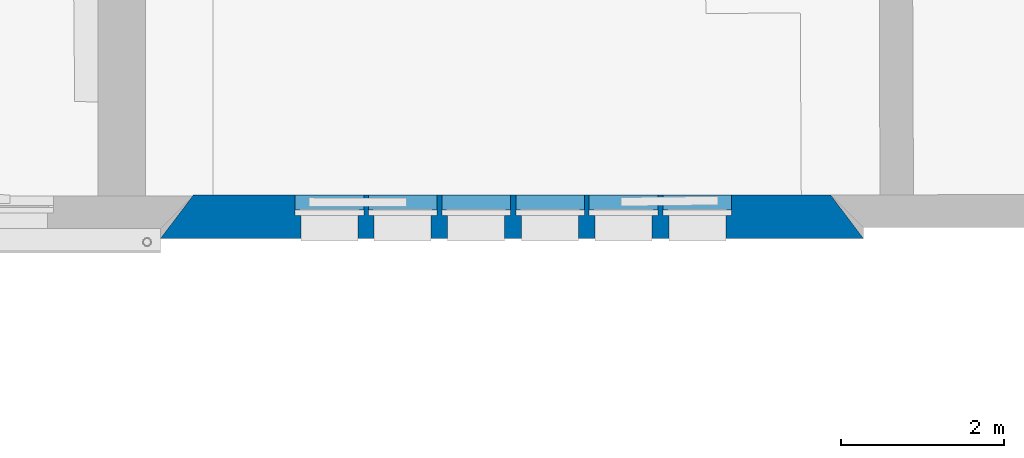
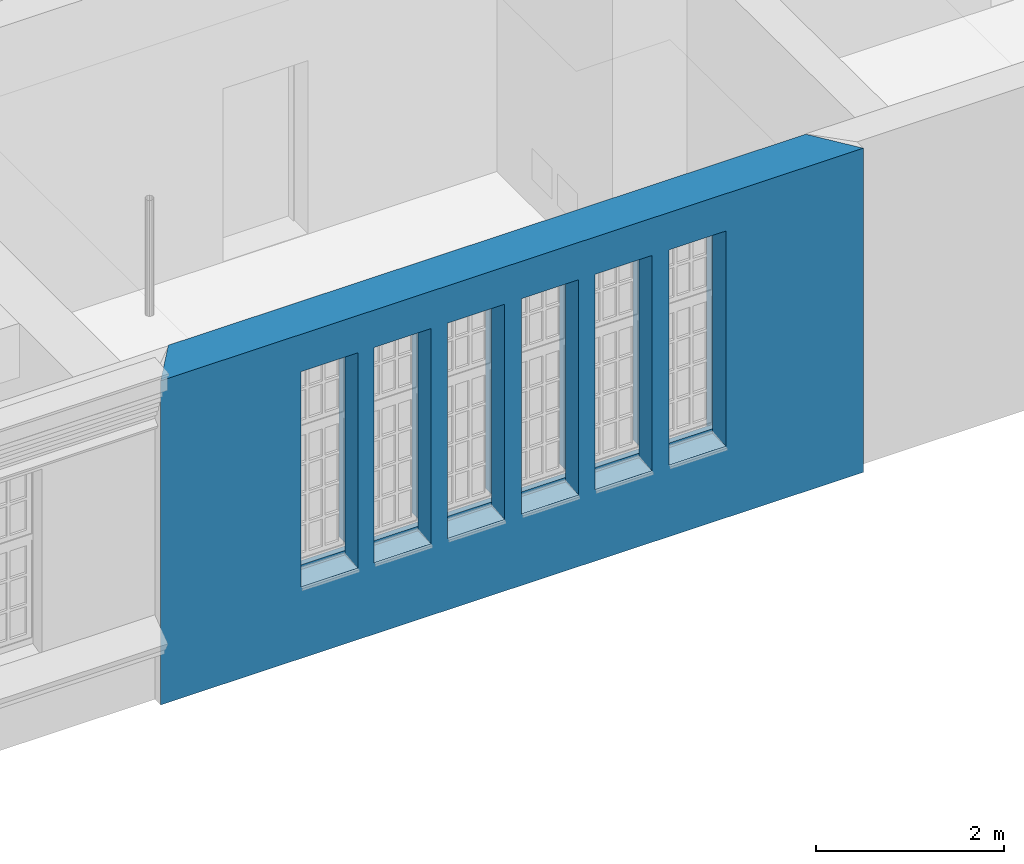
# One storey, part 21 of 90: 1 wall, 11 openings.
"""IFC2X3 building model written with IfcOpenShell, lengths in metres."""

import ifcopenshell
import ifcopenshell.guid

model = None  # the IFC model being written
_history = None  # IfcOwnerHistory: only IFC2X3 demands one
_inside = {}  # id of a spatial element -> (the spatial element, [elements in it])
_under = {}  # id of a project, library or spatial element -> (it, [spatial elements below it])
_declared = {}  # id of a project -> (the project, [libraries it declares])
_typed = {}  # id of a type object -> (the type object, [elements of that type])
_made_of = {}  # id of a material, layer set ... -> (it, [elements and type objects made of it])


def new_model(schema):
    """Start an empty IFC model of exactly this schema.

    Asked for "IFC4X3", IfcOpenShell would pick the latest addendum, in which some entities
    have other attributes; the version numbers below select the first issue.
    IFC2X3 requires an IfcOwnerHistory on every rooted entity: one is made here for all.
    """
    global model, _history
    if schema == "IFC4X3":
        model = ifcopenshell.file(schema_version=(4, 3, 0, 0))
    else:
        model = ifcopenshell.file(schema=schema)
    _inside.clear()
    _under.clear()
    _declared.clear()
    _typed.clear()
    _made_of.clear()
    _history = None
    if model.schema == "IFC2X3":
        org = make("IfcOrganization", Name="unknown")
        user = make(
            "IfcPersonAndOrganization",
            ThePerson=make("IfcPerson", FamilyName="unknown"),
            TheOrganization=org,
        )
        app = make(
            "IfcApplication",
            ApplicationDeveloper=org,
            Version="unknown",
            ApplicationFullName="unknown",
            ApplicationIdentifier="unknown",
        )
        _history = make(
            "IfcOwnerHistory",
            OwningUser=user,
            OwningApplication=app,
            ChangeAction="ADDED",
            CreationDate=0,
        )
    return model


def make(cls, **values):
    """One entity of the class cls with the attributes given. An attribute that is None is left unset."""
    return model.create_entity(
        cls, **{name: value for name, value in values.items() if value is not None}
    )


def entity(cls, *values):
    """Any entity or typed value of the class cls, its attributes in the order of the schema. None: left unset."""
    e = model.create_entity(cls)
    for i, value in enumerate(values):
        if value is not None:
            e[i] = value
    return e


def rooted(cls, **values):
    """An entity with a GlobalId (a new one), such as an element, a storey or a relation."""
    return make(cls, GlobalId=ifcopenshell.guid.new(), OwnerHistory=_history, **values)


def si_unit(unit_type, name, prefix=None):
    """IfcSIUnit, for example si_unit("LENGTHUNIT", "METRE", prefix="MILLI")."""
    return make("IfcSIUnit", UnitType=unit_type, Prefix=prefix, Name=name)


def converted_unit(unit_type, name, factor, base, dimensions=None, offset=None):
    """IfcConversionBasedUnit, such as the inch: factor (a typed value) times the base unit."""
    return make(
        "IfcConversionBasedUnit"
        if offset is None
        else "IfcConversionBasedUnitWithOffset",
        ConversionOffset=offset,
        Dimensions=None
        if dimensions is None
        else entity("IfcDimensionalExponents", *dimensions),
        UnitType=unit_type,
        Name=name,
        ConversionFactor=make(
            "IfcMeasureWithUnit", ValueComponent=factor, UnitComponent=base
        ),
    )


def derived_unit(unit_type, elements):
    """IfcDerivedUnit: a product of units, each with its exponent."""
    return make(
        "IfcDerivedUnit",
        Elements=[
            make("IfcDerivedUnitElement", Unit=unit, Exponent=power)
            for unit, power in elements
        ],
        UnitType=unit_type,
    )


def money_unit(currency):
    """IfcMonetaryUnit."""
    return make("IfcMonetaryUnit", Currency=currency)


def assignment(units):
    """IfcUnitAssignment: the units of a project."""
    return None if units is None else make("IfcUnitAssignment", Units=units)


def point(xyz):
    """IfcCartesianPoint."""
    return None if xyz is None else make("IfcCartesianPoint", Coordinates=xyz)


def direction(xyz):
    """IfcDirection."""
    return None if xyz is None else make("IfcDirection", DirectionRatios=xyz)


def frame(location, z_axis=None, x_axis=None):
    """IfcAxis2Placement3D, a coordinate frame: its origin and axes. An axis left out is left unset."""
    return make(
        "IfcAxis2Placement3D",
        Location=point(location),
        Axis=direction(z_axis),
        RefDirection=direction(x_axis),
    )


def frame_2d(location, x_axis=None):
    """IfcAxis2Placement2D, a coordinate frame in the plane: its origin and x axis."""
    return make(
        "IfcAxis2Placement2D", Location=point(location), RefDirection=direction(x_axis)
    )


def origin_with_axes():
    """The frame at (0, 0, 0) with the z axis (0, 0, 1) and the x axis (1, 0, 0) written out."""
    return frame((0.0, 0.0, 0.0), z_axis=(0.0, 0.0, 1.0), x_axis=(1.0, 0.0, 0.0))


def origin_2d_with_axis():
    """The frame at (0, 0) in the plane with the x axis (1, 0) written out."""
    return frame_2d((0.0, 0.0), x_axis=(1.0, 0.0))


def place(relative_to, where):
    """IfcLocalPlacement: puts the frame where relative to a parent placement (None: the world)."""
    return make(
        "IfcLocalPlacement", PlacementRelTo=relative_to, RelativePlacement=where
    )


def context(
    kind, dimensions, precision=None, world=None, true_north=None, identifier=None
):
    """IfcGeometricRepresentationContext, for example the 3D "Model" context."""
    return make(
        "IfcGeometricRepresentationContext",
        ContextIdentifier=identifier,
        ContextType=kind,
        CoordinateSpaceDimension=dimensions,
        Precision=precision,
        WorldCoordinateSystem=world,
        TrueNorth=true_north,
    )


def subcontext(parent, identifier, kind, view, scale=None):
    """IfcGeometricRepresentationSubContext, for example "Body" below "Model"."""
    return make(
        "IfcGeometricRepresentationSubContext",
        ContextIdentifier=identifier,
        ContextType=kind,
        ParentContext=parent,
        TargetScale=scale,
        TargetView=view,
    )


def project(units=None, contexts=None):
    """IfcProject with its units and contexts."""
    return rooted(
        "IfcProject",
        Name="project",
        RepresentationContexts=contexts,
        UnitsInContext=assignment(units),
    )


def spatial(cls, under=None, at=None, **own):
    """A site, building, storey or space (cls), placed at a placement, below another one or the project."""
    s = rooted(cls, ObjectPlacement=at, **own)
    if under is not None:
        _under.setdefault(under.id(), (under, []))[1].append(s)
    return s


def polyline(points):
    """IfcPolyline through the points."""
    return make("IfcPolyline", Points=[point(p) for p in points])


def profile(cls, at=None, kind="AREA", **sizes):
    """A parametric profile (cls). Its sizes go by their IFC names, for example OverallWidth=200.0."""
    return make(cls, ProfileType=kind, Position=at, **sizes)


def rectangle(**sizes):
    """IfcRectangleProfileDef."""
    return profile("IfcRectangleProfileDef", **sizes)


def outline(outer, holes=None, kind="AREA"):
    """IfcArbitraryClosedProfileDef: a profile drawn as a closed curve; with holes, ...WithVoids."""
    if holes is None:
        return make("IfcArbitraryClosedProfileDef", ProfileType=kind, OuterCurve=outer)
    return make(
        "IfcArbitraryProfileDefWithVoids",
        ProfileType=kind,
        OuterCurve=outer,
        InnerCurves=holes,
    )


def extrude(swept, where, along, depth):
    """IfcExtrudedAreaSolid: the profile swept, set in the frame where, extruded along a direction by depth."""
    return make(
        "IfcExtrudedAreaSolid",
        SweptArea=swept,
        Position=where,
        ExtrudedDirection=direction(along),
        Depth=depth,
    )


def shape(context_of_items, identifier, shape_type, items):
    """IfcShapeRepresentation: the items that make up one representation, for example the "Body"."""
    return make(
        "IfcShapeRepresentation",
        ContextOfItems=context_of_items,
        RepresentationIdentifier=identifier,
        RepresentationType=shape_type,
        Items=items,
    )


def material(Name=None, Category=None):
    """IfcMaterial."""
    return make("IfcMaterial", Name=Name, Category=Category)


def layer(
    of_material, thickness, ventilated=None, Name=None, Category=None, Priority=None
):
    """IfcMaterialLayer: one layer of a wall or slab, of a material (None: an air gap)."""
    return make(
        "IfcMaterialLayer",
        Material=of_material,
        LayerThickness=thickness,
        IsVentilated=ventilated,
        Name=Name,
        Category=Category,
        Priority=Priority,
    )


def layer_set(layers, Name=None):
    """IfcMaterialLayerSet."""
    return make("IfcMaterialLayerSet", MaterialLayers=layers, LayerSetName=Name)


def layer_usage(for_layer_set, set_direction, sense, offset, extent=None):
    """IfcMaterialLayerSetUsage: how a layer set lies in its element."""
    return make(
        "IfcMaterialLayerSetUsage",
        ForLayerSet=for_layer_set,
        LayerSetDirection=set_direction,
        DirectionSense=sense,
        OffsetFromReferenceLine=offset,
        ReferenceExtent=extent,
    )


def made_of(thing, what):
    """Note that an element or type object is made of a material, layer set ...; save() writes the relation."""
    if what is not None:
        _made_of.setdefault(what.id(), (what, []))[1].append(thing)
    return thing


def type_object(cls, material=None, **own):
    """A type object (cls), such as IfcWallType, which elements share."""
    return made_of(rooted(cls, **own), material)


def element(
    cls,
    number,
    at=None,
    inside=None,
    cuts=None,
    type_object=None,
    material=None,
    context=None,
    identifier="Body",
    shape_type=None,
    held_by="IfcProductDefinitionShape",
    body=None,
    shapes=None,
    **own,
):
    """One element of the class cls, such as IfcWall. Its Tag is "e" and its number.

    at: its placement. inside: the storey or other place that contains it. cuts: it is an
    opening in that element (IfcRelVoidsElement). A single representation is given by context,
    identifier, shape_type and body (its items); several are given by shapes. held_by: the class
    of the entity that holds the representations. save() writes the other relations.
    """
    e = rooted(cls, Tag="e%d" % number, ObjectPlacement=at, **own)
    if body is not None:
        shapes = [shape(context, identifier, shape_type, body)]
    if shapes is not None:
        e.Representation = make(held_by, Representations=shapes)
    if inside is not None:
        _inside.setdefault(inside.id(), (inside, []))[1].append(e)
    if cuts is not None:
        rooted(
            "IfcRelVoidsElement", RelatingBuildingElement=cuts, RelatedOpeningElement=e
        )
    if type_object is not None:
        _typed.setdefault(type_object.id(), (type_object, []))[1].append(e)
    return made_of(e, material)


def aggregate(whole, parts):
    """IfcRelAggregates: a whole, such as a stair, and the parts it consists of."""
    return rooted("IfcRelAggregates", RelatingObject=whole, RelatedObjects=parts)


def save(model, path):
    """Write the relations noted so far, then the file.

    IfcRelAggregates (storeys below a building ...), IfcRelContainedInSpatialStructure (elements
    in a storey), IfcRelDefinesByType, IfcRelAssociatesMaterial and IfcRelDeclares: one each for
    every whole, place, type object, material and project.
    """
    for whole, parts in _under.values():
        aggregate(whole, parts)
    for where, things in _inside.values():
        rooted(
            "IfcRelContainedInSpatialStructure",
            RelatedElements=things,
            RelatingStructure=where,
        )
    for kind, things in _typed.values():
        rooted("IfcRelDefinesByType", RelatedObjects=things, RelatingType=kind)
    for what, things in _made_of.values():
        rooted("IfcRelAssociatesMaterial", RelatedObjects=things, RelatingMaterial=what)
    for by, libraries in _declared.values():
        rooted("IfcRelDeclares", RelatingContext=by, RelatedDefinitions=libraries)
    model.write(path)


model = new_model("IFC2X3")

# Units and contexts
model_context = context("Model", 3, precision=1e-05, world=origin_with_axes(), true_north=direction((0.0, 1.0)))
body_context = subcontext(model_context, "Body", "Model", "MODEL_VIEW")
ifc_project = project(units=[si_unit("LENGTHUNIT", "METRE"), si_unit("AREAUNIT", "SQUARE_METRE"), si_unit("VOLUMEUNIT", "CUBIC_METRE"), converted_unit("PLANEANGLEUNIT", "DEGREE", entity("IfcPlaneAngleMeasure", 0.0174532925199), si_unit("PLANEANGLEUNIT", "RADIAN"), dimensions=[0, 0, 0, 0, 0, 0, 0]), money_unit("EUR"), converted_unit("TIMEUNIT", "Year", entity("IfcTimeMeasure", 31556926.0), si_unit("TIMEUNIT", "SECOND"), dimensions=[0, 0, 1, 0, 0, 0, 0]), si_unit("MASSUNIT", "GRAM", prefix="KILO"), si_unit("THERMODYNAMICTEMPERATUREUNIT", "DEGREE_CELSIUS"), si_unit("LUMINOUSINTENSITYUNIT", "LUMEN"), si_unit("ENERGYUNIT", "JOULE", prefix="MEGA"), derived_unit("THERMALCONDUCTANCEUNIT", [(si_unit("POWERUNIT", "WATT"), 1), (si_unit("LENGTHUNIT", "METRE"), -1), (si_unit("THERMODYNAMICTEMPERATUREUNIT", "KELVIN"), -1)]), derived_unit("SPECIFICHEATCAPACITYUNIT", [(si_unit("ENERGYUNIT", "JOULE"), 1), (si_unit("MASSUNIT", "GRAM", prefix="KILO"), -1), (si_unit("THERMODYNAMICTEMPERATUREUNIT", "KELVIN"), -1)]), derived_unit("MASSDENSITYUNIT", [(si_unit("MASSUNIT", "GRAM", prefix="KILO"), 1), (si_unit("VOLUMEUNIT", "CUBIC_METRE"), -1)])], contexts=[model_context])

# Site, building, storey
site_placement = place(None, origin_with_axes())
site = spatial("IfcSite", under=ifc_project, at=site_placement, Name="Gelände", CompositionType="ELEMENT")
building_placement = place(site_placement, origin_with_axes())
building = spatial("IfcBuilding", under=site, at=building_placement, Name="Gebäude", CompositionType="ELEMENT")
storey_placement = place(building_placement, frame((0.0, 0.0, 3.7), z_axis=(0.0, 0.0, 1.0), x_axis=(1.0, 0.0, 0.0)))
storey = spatial("IfcBuildingStorey", under=building, at=storey_placement, Name="1.OBERGESCHOSS", CompositionType="ELEMENT", Elevation=3.7)

# Wall, openings
ifc_material = material(Name="05_ALLGEMEIN - TRAGENDE BAUTEILE")
ifc_layer = layer(ifc_material, 0.53, ventilated="UNKNOWN")
ifc_layer_set = layer_set([ifc_layer], Name="05_ALLGEMEIN - TRAGENDE BAUTEILE 0.53")
ifc_layer_usage = layer_usage(ifc_layer_set, "AXIS2", "NEGATIVE", 0.53)
wall_type = type_object("IfcWallType", Name="05_ALLGEMEIN - TRAGENDE BAUTEILE 530", PredefinedType="ELEMENTEDWALL")
wall_placement = place(storey_placement, frame((3.74546259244, 9.87440782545, -0.1), z_axis=(0.0, 0.0, 1.0), x_axis=(0.999999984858, -0.000174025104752, 0.0)))
wall = element("IfcWallStandardCase", 1, at=wall_placement, inside=storey, type_object=wall_type, material=ifc_layer_usage, Name="Wand-036", ObjectType="ELEMENTEDWALL", context=body_context, shape_type="SweptSolid", body=[
    extrude(outline(polyline([(0.0, 0.0), (8.61264989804, 0.0), (8.21264989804, 0.53), (0.401175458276, 0.53), (0.0, 0.0)])), origin_with_axes(), (0.0, 0.0, 1.0), 4.2),
])
opening_1_placement = place(wall_placement, frame((2.06990755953, 0.0, 0.986122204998), z_axis=(0.0, 0.0, 1.0), x_axis=(1.0, 0.0, 0.0)))
element("IfcOpeningElement", 2, at=opening_1_placement, cuts=wall, Name="Fenster-015", context=body_context, shape_type="SweptSolid", body=[
    extrude(rectangle(XDim=0.840207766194, YDim=1.18, at=origin_2d_with_axis()), frame((0.0, 0.94, -0.786122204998), z_axis=(0.0, 0.0, 1.0), x_axis=(1.0, 0.0, 0.0)), (0.0, 0.0, 1.0), 0.786122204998),
    extrude(rectangle(XDim=0.700207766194, YDim=2.79, at=origin_2d_with_axis()), frame((0.0, 0.28, 1.335), z_axis=(0.0, 1.0, 0.0), x_axis=(1.0, 0.0, 0.0)), (0.0, 0.0, -1.0), 0.81),
    extrude(rectangle(XDim=0.840207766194, YDim=2.86, at=origin_2d_with_axis()), frame((0.0, 0.35, 1.43), z_axis=(0.0, -1.0, 0.0), x_axis=(1.0, 0.0, 0.0)), (0.0, 0.0, -1.0), 0.71),
    extrude(rectangle(XDim=0.840207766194, YDim=2.8, at=origin_2d_with_axis()), frame((0.0, 0.28, 1.4), z_axis=(0.0, 1.0, 0.0), x_axis=(1.0, 0.0, 0.0)), (0.0, 0.0, 1.0), 0.07),
])
opening_2_placement = place(wall_placement, frame((2.96587801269, 0.0, 0.986122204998), z_axis=(0.0, 0.0, 1.0), x_axis=(1.0, 0.0, 0.0)))
element("IfcOpeningElement", 3, at=opening_2_placement, cuts=wall, Name="Fenster-015", context=body_context, shape_type="SweptSolid", body=[
    extrude(rectangle(XDim=0.840207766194, YDim=1.18, at=origin_2d_with_axis()), frame((0.0, 0.94, -0.786122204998), z_axis=(0.0, 0.0, 1.0), x_axis=(1.0, 0.0, 0.0)), (0.0, 0.0, 1.0), 0.786122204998),
    extrude(rectangle(XDim=0.700207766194, YDim=2.79, at=origin_2d_with_axis()), frame((0.0, 0.28, 1.335), z_axis=(0.0, 1.0, 0.0), x_axis=(1.0, 0.0, 0.0)), (0.0, 0.0, -1.0), 0.81),
    extrude(rectangle(XDim=0.840207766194, YDim=2.86, at=origin_2d_with_axis()), frame((0.0, 0.35, 1.43), z_axis=(0.0, -1.0, 0.0), x_axis=(1.0, 0.0, 0.0)), (0.0, 0.0, -1.0), 0.71),
    extrude(rectangle(XDim=0.840207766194, YDim=2.8, at=origin_2d_with_axis()), frame((0.0, 0.28, 1.4), z_axis=(0.0, 1.0, 0.0), x_axis=(1.0, 0.0, 0.0)), (0.0, 0.0, 1.0), 0.07),
])
opening_3_placement = place(wall_placement, frame((3.86669796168, 0.0, 0.986122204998), z_axis=(0.0, 0.0, 1.0), x_axis=(1.0, 0.0, 0.0)))
element("IfcOpeningElement", 4, at=opening_3_placement, cuts=wall, Name="Fenster-015", context=body_context, shape_type="SweptSolid", body=[
    extrude(rectangle(XDim=0.840207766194, YDim=1.18, at=origin_2d_with_axis()), frame((0.0, 0.94, -0.786122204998), z_axis=(0.0, 0.0, 1.0), x_axis=(1.0, 0.0, 0.0)), (0.0, 0.0, 1.0), 0.786122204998),
    extrude(rectangle(XDim=0.700207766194, YDim=2.79, at=origin_2d_with_axis()), frame((0.0, 0.28, 1.335), z_axis=(0.0, 1.0, 0.0), x_axis=(1.0, 0.0, 0.0)), (0.0, 0.0, -1.0), 0.81),
    extrude(rectangle(XDim=0.840207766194, YDim=2.86, at=origin_2d_with_axis()), frame((0.0, 0.35, 1.43), z_axis=(0.0, -1.0, 0.0), x_axis=(1.0, 0.0, 0.0)), (0.0, 0.0, -1.0), 0.71),
    extrude(rectangle(XDim=0.840207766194, YDim=2.8, at=origin_2d_with_axis()), frame((0.0, 0.28, 1.4), z_axis=(0.0, 1.0, 0.0), x_axis=(1.0, 0.0, 0.0)), (0.0, 0.0, 1.0), 0.07),
])
opening_4_placement = place(wall_placement, frame((4.7735526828, 0.0, 0.986122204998), z_axis=(0.0, 0.0, 1.0), x_axis=(1.0, 0.0, 0.0)))
element("IfcOpeningElement", 5, at=opening_4_placement, cuts=wall, Name="Fenster-015", context=body_context, shape_type="SweptSolid", body=[
    extrude(rectangle(XDim=0.840207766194, YDim=1.18, at=origin_2d_with_axis()), frame((0.0, 0.94, -0.786122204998), z_axis=(0.0, 0.0, 1.0), x_axis=(1.0, 0.0, 0.0)), (0.0, 0.0, 1.0), 0.786122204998),
    extrude(rectangle(XDim=0.700207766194, YDim=2.79, at=origin_2d_with_axis()), frame((0.0, 0.28, 1.335), z_axis=(0.0, 1.0, 0.0), x_axis=(1.0, 0.0, 0.0)), (0.0, 0.0, -1.0), 0.81),
    extrude(rectangle(XDim=0.840207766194, YDim=2.86, at=origin_2d_with_axis()), frame((0.0, 0.35, 1.43), z_axis=(0.0, -1.0, 0.0), x_axis=(1.0, 0.0, 0.0)), (0.0, 0.0, -1.0), 0.71),
    extrude(rectangle(XDim=0.840207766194, YDim=2.8, at=origin_2d_with_axis()), frame((0.0, 0.28, 1.4), z_axis=(0.0, 1.0, 0.0), x_axis=(1.0, 0.0, 0.0)), (0.0, 0.0, 1.0), 0.07),
])
opening_5_placement = place(wall_placement, frame((5.67244433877, 0.0, 0.986122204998), z_axis=(0.0, 0.0, 1.0), x_axis=(1.0, 0.0, 0.0)))
element("IfcOpeningElement", 6, at=opening_5_placement, cuts=wall, Name="Fenster-015", context=body_context, shape_type="SweptSolid", body=[
    extrude(rectangle(XDim=0.840207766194, YDim=1.18, at=origin_2d_with_axis()), frame((0.0, 0.94, -0.786122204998), z_axis=(0.0, 0.0, 1.0), x_axis=(1.0, 0.0, 0.0)), (0.0, 0.0, 1.0), 0.786122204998),
    extrude(rectangle(XDim=0.700207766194, YDim=2.79, at=origin_2d_with_axis()), frame((0.0, 0.28, 1.335), z_axis=(0.0, 1.0, 0.0), x_axis=(1.0, 0.0, 0.0)), (0.0, 0.0, -1.0), 0.81),
    extrude(rectangle(XDim=0.840207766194, YDim=2.86, at=origin_2d_with_axis()), frame((0.0, 0.35, 1.43), z_axis=(0.0, -1.0, 0.0), x_axis=(1.0, 0.0, 0.0)), (0.0, 0.0, -1.0), 0.71),
    extrude(rectangle(XDim=0.840207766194, YDim=2.8, at=origin_2d_with_axis()), frame((0.0, 0.28, 1.4), z_axis=(0.0, 1.0, 0.0), x_axis=(1.0, 0.0, 0.0)), (0.0, 0.0, 1.0), 0.07),
])
opening_6_placement = place(wall_placement, frame((6.57736620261, 0.0, 0.986122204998), z_axis=(0.0, 0.0, 1.0), x_axis=(1.0, 0.0, 0.0)))
element("IfcOpeningElement", 7, at=opening_6_placement, cuts=wall, Name="Fenster-015", context=body_context, shape_type="SweptSolid", body=[
    extrude(rectangle(XDim=0.840207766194, YDim=1.18, at=origin_2d_with_axis()), frame((0.0, 0.94, -0.786122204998), z_axis=(0.0, 0.0, 1.0), x_axis=(1.0, 0.0, 0.0)), (0.0, 0.0, 1.0), 0.786122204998),
    extrude(rectangle(XDim=0.700207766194, YDim=2.79, at=origin_2d_with_axis()), frame((0.0, 0.28, 1.335), z_axis=(0.0, 1.0, 0.0), x_axis=(1.0, 0.0, 0.0)), (0.0, 0.0, -1.0), 0.81),
    extrude(rectangle(XDim=0.840207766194, YDim=2.86, at=origin_2d_with_axis()), frame((0.0, 0.35, 1.43), z_axis=(0.0, -1.0, 0.0), x_axis=(1.0, 0.0, 0.0)), (0.0, 0.0, -1.0), 0.71),
    extrude(rectangle(XDim=0.840207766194, YDim=2.8, at=origin_2d_with_axis()), frame((0.0, 0.28, 1.4), z_axis=(0.0, 1.0, 0.0), x_axis=(1.0, 0.0, 0.0)), (0.0, 0.0, 1.0), 0.07),
])
opening_7_placement = place(wall_placement, frame((2.51789278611, 0.0, 0.2), z_axis=(0.0, 0.0, 1.0), x_axis=(1.0, 0.0, 0.0)))
element("IfcOpeningElement", 8, at=opening_7_placement, cuts=wall, Name="Fenster-020", ObjectType="Recess", context=body_context, shape_type="SweptSolid", body=[
    extrude(rectangle(XDim=0.0557626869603, YDim=0.786122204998, at=origin_2d_with_axis()), frame((0.0, 0.35, 0.393061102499), z_axis=(0.0, -1.0, 0.0), x_axis=(1.0, 0.0, 0.0)), (0.0, 0.0, -1.0), 0.71),
])
opening_8_placement = place(wall_placement, frame((3.41628798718, 0.0, 0.2), z_axis=(0.0, 0.0, 1.0), x_axis=(1.0, 0.0, 0.0)))
element("IfcOpeningElement", 9, at=opening_8_placement, cuts=wall, Name="Fenster-020", ObjectType="Recess", context=body_context, shape_type="SweptSolid", body=[
    extrude(rectangle(XDim=0.0606121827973, YDim=0.786122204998, at=origin_2d_with_axis()), frame((0.0, 0.35, 0.393061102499), z_axis=(0.0, -1.0, 0.0), x_axis=(1.0, 0.0, 0.0)), (0.0, 0.0, -1.0), 0.71),
])
opening_9_placement = place(wall_placement, frame((4.32012532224, 0.0, 0.2), z_axis=(0.0, 0.0, 1.0), x_axis=(1.0, 0.0, 0.0)))
element("IfcOpeningElement", 10, at=opening_9_placement, cuts=wall, Name="Fenster-020", ObjectType="Recess", context=body_context, shape_type="SweptSolid", body=[
    extrude(rectangle(XDim=0.0666469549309, YDim=0.786122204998, at=origin_2d_with_axis()), frame((0.0, 0.35, 0.393061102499), z_axis=(0.0, -1.0, 0.0), x_axis=(1.0, 0.0, 0.0)), (0.0, 0.0, -1.0), 0.71),
])
opening_10_placement = place(wall_placement, frame((5.22299851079, 0.0, 0.2), z_axis=(0.0, 0.0, 1.0), x_axis=(1.0, 0.0, 0.0)))
element("IfcOpeningElement", 11, at=opening_10_placement, cuts=wall, Name="Fenster-020", ObjectType="Recess", context=body_context, shape_type="SweptSolid", body=[
    extrude(rectangle(XDim=0.0586838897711, YDim=0.786122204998, at=origin_2d_with_axis()), frame((0.0, 0.35, 0.393061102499), z_axis=(0.0, -1.0, 0.0), x_axis=(1.0, 0.0, 0.0)), (0.0, 0.0, -1.0), 0.71),
])
opening_11_placement = place(wall_placement, frame((6.12490527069, 0.0, 0.2), z_axis=(0.0, 0.0, 1.0), x_axis=(1.0, 0.0, 0.0)))
element("IfcOpeningElement", 12, at=opening_11_placement, cuts=wall, Name="Fenster-020", ObjectType="Recess", context=body_context, shape_type="SweptSolid", body=[
    extrude(rectangle(XDim=0.0647140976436, YDim=0.786122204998, at=origin_2d_with_axis()), frame((0.0, 0.35, 0.393061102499), z_axis=(0.0, -1.0, 0.0), x_axis=(1.0, 0.0, 0.0)), (0.0, 0.0, -1.0), 0.71),
])

save(model, "model.ifc")
